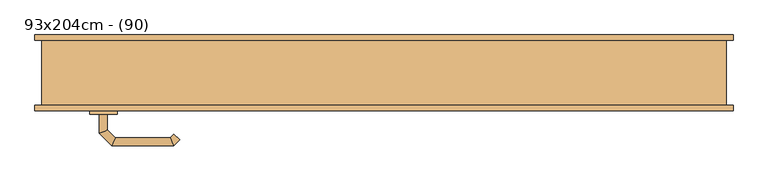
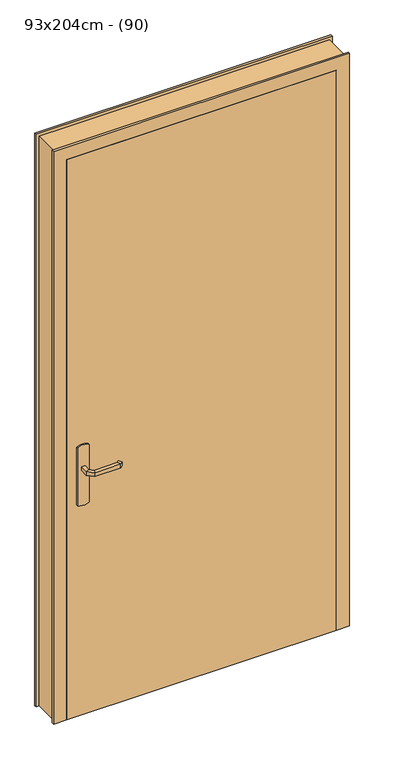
"""IFC4 building model written with IfcOpenShell, lengths in millimetres: door geometry, C&L Int. Simple vantail (dormant variable) : 93x204cm - (90)."""

from ifc_helpers import new_model, si_unit, point, frame, frame_2d, origin, origin_with_axes, place, context, project, spatial, polyline, circle_curve, ellipse_curve, trimmed, segment, composite_curve, outline, extrude, faceted_brep, source, transform, mapped, element, save
from ifc_brep_helpers import plane_surface, cylinder_surface, advanced_brep


def door_93x204cm_90_e0afc46d(model_context):
    return source(origin(), model_context, "Body", "SolidModel", [
        extrude(outline(composite_curve([segment(trimmed(circle_curve(frame_2d((804.6410162, -410.0)), 40.0), [point((770.0, -430.0))], [point((770.0, -390.0))], False, "CARTESIAN"), True, "CONTINUOUS"), segment(polyline([(770.0, -390.0), (980.0, -390.0)]), True, "CONTINUOUS"), segment(trimmed(circle_curve(frame_2d((945.3589838, -410.0)), 40.0), [point((980.0, -390.0))], [point((980.0, -430.0))], False, "CARTESIAN"), True, "CONTINUOUS"), segment(polyline([(980.0, -430.0), (770.0, -430.0)]), True, "CONTINUOUS")], self_intersect=False)), frame((0.0, -60.5, 0.0), z_axis=(0.0, 1.0, 0.0), x_axis=(0.0, 0.0, 1.0)), (0.0, 0.0, 1.0), 5.0),
        extrude(outline(composite_curve([segment(trimmed(circle_curve(frame_2d((945.3589838, -410.0)), 40.0), [point((980.0, -390.0))], [point((980.0, -430.0))], False, "CARTESIAN"), True, "CONTINUOUS"), segment(polyline([(980.0, -430.0), (770.0, -430.0)]), True, "CONTINUOUS"), segment(trimmed(circle_curve(frame_2d((804.6410162, -410.0)), 40.0), [point((770.0, -430.0))], [point((770.0, -390.0))], False, "CARTESIAN"), True, "CONTINUOUS"), segment(polyline([(770.0, -390.0), (980.0, -390.0)]), True, "CONTINUOUS")], self_intersect=False)), frame((0.0, -15.5, 0.0), z_axis=(0.0, 1.0, 0.0), x_axis=(0.0, 0.0, 1.0)), (0.0, 0.0, 1.0), 5.0),
        advanced_brep(
        [(-416.0, -60.5, 907.0), (-404.0, -60.5, 907.0), (-404.0, -60.5, 893.0), (-416.0, -60.5, 893.0), (-416.0, -88.1509507, 907.0), (-404.0, -83.180388, 907.0), (-404.0, -83.180388, 893.0), (-416.0, -88.1509507, 893.0), (-397.62279, -106.5281607, 907.0), (-392.6522273, -94.5281607, 907.0), (-392.6522273, -94.5281607, 893.0), (-397.62279, -106.5281607, 893.0), (-307.496078, -106.5281607, 907.0), (-312.4666408, -94.5281607, 907.0), (-312.4666408, -94.5281607, 893.0), (-307.496078, -106.5281607, 893.0), (-298.6676509, -97.6997336, 907.0), (-298.6676509, -97.6997336, 893.0), (-307.1529323, -89.2144522, 893.0), (-307.1529323, -89.2144522, 907.0)],
        [
            (0, 1, circle_curve(frame((-410.0, -60.5, 886.9542278), z_axis=(0.0, 1.0, 0.0), x_axis=(1.0, 0.0, 0.0)), 20.9244589)),
            (1, 2),
            (2, 3, circle_curve(frame((-410.0, -60.5, 913.0457722), z_axis=(0.0, 1.0, 0.0), x_axis=(1.0, 0.0, 0.0)), 20.9244589)),
            (3, 0),
            (0, 4),
            (4, 5, ellipse_curve(frame((-410.0, -85.6656693, 886.9542278), z_axis=(-0.3826834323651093, 0.9238795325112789, 0.0), x_axis=(0.9238795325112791, 0.38268343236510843, 0.0)), 22.6484711, 20.9244589)),
            (5, 1),
            (5, 6),
            (6, 2),
            (6, 7, ellipse_curve(frame((-410.0, -85.6656693, 913.0457722), z_axis=(-0.3826834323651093, 0.9238795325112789, 0.0), x_axis=(0.9238795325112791, 0.38268343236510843, 0.0)), 22.6484711, 20.9244589)),
            (7, 3),
            (7, 4),
            (4, 8),
            (8, 9, ellipse_curve(frame((-395.1375086, -100.5281607, 886.9542278), z_axis=(-0.9238795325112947, 0.38268343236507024, 0.0), x_axis=(0.3826834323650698, 0.9238795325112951, 0.0)), 22.6484711, 20.9244589)),
            (9, 5),
            (9, 10),
            (10, 6),
            (10, 11, ellipse_curve(frame((-395.1375086, -100.5281607, 913.0457722), z_axis=(-0.9238795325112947, 0.38268343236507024, 0.0), x_axis=(0.3826834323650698, 0.9238795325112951, 0.0)), 22.6484711, 20.9244589)),
            (11, 7),
            (11, 8),
            (8, 12),
            (12, 13, ellipse_curve(frame((-309.9813594, -100.5281607, 886.9542278), z_axis=(-0.9238795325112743, -0.3826834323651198, 0.0), x_axis=(-0.38268343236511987, 0.9238795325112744, 0.0)), 22.6484711, 20.9244589)),
            (13, 9),
            (13, 14),
            (14, 10),
            (14, 15, ellipse_curve(frame((-309.9813594, -100.5281607, 913.0457722), z_axis=(-0.9238795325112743, -0.3826834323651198, 0.0), x_axis=(-0.38268343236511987, 0.9238795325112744, 0.0)), 22.6484711, 20.9244589)),
            (15, 11),
            (15, 12),
            (16, 17),
            (17, 18, circle_curve(frame((-302.9102916, -93.4570929, 913.0457722), z_axis=(0.7071067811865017, 0.7071067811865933, 0.0), x_axis=(-0.7071067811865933, 0.7071067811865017, 0.0)), 20.9244589)),
            (18, 19),
            (19, 16, circle_curve(frame((-302.9102916, -93.4570929, 886.9542278), z_axis=(0.7071067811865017, 0.7071067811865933, 0.0), x_axis=(-0.7071067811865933, 0.7071067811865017, 0.0)), 20.9244589)),
            (12, 16),
            (19, 13),
            (18, 14),
            (17, 15),
        ],
        [
            plane_surface(frame((-419.2195445, -60.5, 900.0), z_axis=(0.0, 1.0, 0.0), x_axis=(0.0, 0.0, -1.0))),
            cylinder_surface(frame((-410.0, -60.5, 886.9542278), z_axis=(0.0, 1.0, 0.0), x_axis=(1.0, 0.0, 0.0)), 20.9244589),
            plane_surface(frame((-404.0, -60.5, 907.0), z_axis=(1.0, 0.0, 0.0), x_axis=(0.0, -1.0, 0.0))),
            cylinder_surface(frame((-410.0, -60.5, 913.0457722), z_axis=(0.0, 1.0, 0.0), x_axis=(1.0, 0.0, 0.0)), 20.9244589),
            plane_surface(frame((-416.0, -60.5, 893.0), z_axis=(-1.0, 0.0, 0.0), x_axis=(0.0, -1.0, 0.0))),
            cylinder_surface(frame((-410.0, -85.6656693, 886.9542278), z_axis=(-0.7071067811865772, 0.7071067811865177, 0.0), x_axis=(0.7071067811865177, 0.7071067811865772, 0.0)), 20.9244589),
            plane_surface(frame((-404.0, -83.180388, 907.0), z_axis=(0.7071067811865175, 0.7071067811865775, 0.0), x_axis=(0.7071067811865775, -0.7071067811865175, 0.0))),
            cylinder_surface(frame((-410.0, -85.6656693, 913.0457722), z_axis=(-0.7071067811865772, 0.7071067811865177, 0.0), x_axis=(0.7071067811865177, 0.7071067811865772, 0.0)), 20.9244589),
            plane_surface(frame((-416.0, -88.1509507, 893.0), z_axis=(-0.7071067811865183, -0.7071067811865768, 0.0), x_axis=(0.7071067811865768, -0.7071067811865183, 0.0))),
            cylinder_surface(frame((-395.1375086, -100.5281607, 886.9542278), z_axis=(-1.0, 0.0, 0.0), x_axis=(0.0, 1.0, 0.0)), 20.9244589),
            plane_surface(frame((-392.6522273, -94.5281607, 907.0), z_axis=(0.0, 1.0, 0.0), x_axis=(1.0, 0.0, 0.0))),
            cylinder_surface(frame((-395.1375086, -100.5281607, 913.0457722), z_axis=(-1.0, 0.0, 0.0), x_axis=(0.0, 1.0, 0.0)), 20.9244589),
            plane_surface(frame((-397.62279, -106.5281607, 893.0), z_axis=(0.0, -1.0, 0.0), x_axis=(1.0, 0.0, 0.0))),
            plane_surface(frame((-302.9102916, -93.4570929, 909.2195445), z_axis=(0.7071067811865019, 0.7071067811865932, 0.0), x_axis=(0.7071067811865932, -0.7071067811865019, 0.0))),
            cylinder_surface(frame((-309.9813594, -100.5281607, 886.9542278), z_axis=(-0.7071067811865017, -0.7071067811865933, 0.0), x_axis=(-0.7071067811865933, 0.7071067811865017, 0.0)), 20.9244589),
            plane_surface(frame((-312.4666408, -94.5281607, 907.0), z_axis=(-0.7071067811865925, 0.7071067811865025, 0.0), x_axis=(0.7071067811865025, 0.7071067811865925, 0.0))),
            cylinder_surface(frame((-309.9813594, -100.5281607, 913.0457722), z_axis=(-0.7071067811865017, -0.7071067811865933, 0.0), x_axis=(-0.7071067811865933, 0.7071067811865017, 0.0)), 20.9244589),
            plane_surface(frame((-307.496078, -106.5281607, 893.0), z_axis=(0.707106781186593, -0.7071067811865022, 0.0), x_axis=(0.7071067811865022, 0.707106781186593, 0.0))),
        ],
        [
            (0, [[1, 2, 3, 4]]),
            (1, [[-1, 5, 6, 7]]),
            (2, [[-2, -7, 8, 9]]),
            (3, [[-3, -9, 10, 11]]),
            (4, [[-4, -11, 12, -5]]),
            (5, [[-6, 13, 14, 15]]),
            (6, [[-8, -15, 16, 17]]),
            (7, [[-10, -17, 18, 19]]),
            (8, [[-12, -19, 20, -13]]),
            (9, [[-14, 21, 22, 23]]),
            (10, [[-16, -23, 24, 25]]),
            (11, [[-18, -25, 26, 27]]),
            (12, [[-20, -27, 28, -21]]),
            (13, [[29, 30, 31, 32]]),
            (14, [[-22, 33, -32, 34]]),
            (15, [[-24, -34, -31, 35]]),
            (16, [[-26, -35, -30, 36]]),
            (17, [[-28, -36, -29, -33]]),
        ],
    ),
        advanced_brep(
        [(-404.0, -10.5, 893.0), (-404.0, -10.5, 907.0), (-416.0, -10.5, 907.0), (-416.0, -10.5, 893.0), (-404.0, 11.9852045, 893.0), (-404.0, 11.9852045, 907.0), (-416.0, 16.9557673, 907.0), (-416.0, 16.9557673, 893.0), (-392.5147186, 23.4704859, 893.0), (-392.5147186, 23.4704859, 907.0), (-397.4852814, 35.4704859, 907.0), (-397.4852814, 35.4704859, 893.0), (-312.4394977, 23.4704859, 893.0), (-312.4394977, 23.4704859, 907.0), (-307.468935, 35.4704859, 907.0), (-307.468935, 35.4704859, 893.0), (-307.1257892, 18.1567774, 893.0), (-298.6405078, 26.6420588, 893.0), (-298.6405078, 26.6420588, 907.0), (-307.1257892, 18.1567774, 907.0)],
        [
            (0, 1),
            (1, 2, circle_curve(frame((-410.0, -10.5, 886.9542278), z_axis=(0.0, -1.0, 0.0), x_axis=(-1.0, 0.0, 0.0)), 20.9244589)),
            (2, 3),
            (3, 0, circle_curve(frame((-410.0, -10.5, 913.0457722), z_axis=(0.0, -1.0, 0.0), x_axis=(-1.0, 0.0, 0.0)), 20.9244589)),
            (0, 4),
            (4, 5),
            (5, 1),
            (5, 6, ellipse_curve(frame((-410.0, 14.4704859, 886.9542278), z_axis=(-0.3826834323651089, -0.9238795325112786, 0.0), x_axis=(0.9238795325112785, -0.3826834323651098, 0.0)), 22.6484711, 20.9244589)),
            (6, 2),
            (6, 7),
            (7, 3),
            (7, 4, ellipse_curve(frame((-410.0, 14.4704859, 913.0457722), z_axis=(-0.3826834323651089, -0.9238795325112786, 0.0), x_axis=(0.9238795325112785, -0.3826834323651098, 0.0)), 22.6484711, 20.9244589)),
            (4, 8),
            (8, 9),
            (9, 5),
            (9, 10, ellipse_curve(frame((-395.0, 29.4704859, 886.9542278), z_axis=(-0.9238795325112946, -0.38268343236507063, 0.0), x_axis=(0.3826834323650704, -0.9238795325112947, 0.0)), 22.6484711, 20.9244589)),
            (10, 6),
            (10, 11),
            (11, 7),
            (11, 8, ellipse_curve(frame((-395.0, 29.4704859, 913.0457722), z_axis=(-0.9238795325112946, -0.38268343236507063, 0.0), x_axis=(0.3826834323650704, -0.9238795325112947, 0.0)), 22.6484711, 20.9244589)),
            (8, 12),
            (12, 13),
            (13, 9),
            (13, 14, ellipse_curve(frame((-309.9542163, 29.4704859, 886.9542278), z_axis=(-0.9238795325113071, 0.38268343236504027, 0.0), x_axis=(-0.38268343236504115, -0.9238795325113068, 0.0)), 22.6484711, 20.9244589)),
            (14, 10),
            (14, 15),
            (15, 11),
            (15, 12, ellipse_curve(frame((-309.9542163, 29.4704859, 913.0457722), z_axis=(-0.9238795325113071, 0.38268343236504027, 0.0), x_axis=(-0.38268343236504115, -0.9238795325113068, 0.0)), 22.6484711, 20.9244589)),
            (16, 17, circle_curve(frame((-302.8831485, 22.3994181, 913.0457722), z_axis=(0.7071067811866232, -0.7071067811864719, 0.0), x_axis=(0.7071067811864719, 0.7071067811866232, 0.0)), 20.9244589)),
            (17, 18),
            (18, 19, circle_curve(frame((-302.8831485, 22.3994181, 886.9542278), z_axis=(0.7071067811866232, -0.7071067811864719, 0.0), x_axis=(0.7071067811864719, 0.7071067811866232, 0.0)), 20.9244589)),
            (19, 16),
            (12, 16),
            (19, 13),
            (18, 14),
            (17, 15),
        ],
        [
            plane_surface(frame((-419.2195445, -10.5, 900.0), z_axis=(0.0, -1.0, 0.0), x_axis=(0.0, 0.0, 1.0))),
            plane_surface(frame((-404.0, -10.5, 893.0), z_axis=(1.0, 0.0, 0.0), x_axis=(0.0, 1.0, 0.0))),
            cylinder_surface(frame((-410.0, -10.5, 886.9542278), z_axis=(0.0, -1.0, 0.0), x_axis=(-1.0, 0.0, 0.0)), 20.9244589),
            plane_surface(frame((-416.0, -10.5, 907.0), z_axis=(-1.0, 0.0, 0.0), x_axis=(0.0, 1.0, 0.0))),
            cylinder_surface(frame((-410.0, -10.5, 913.0457722), z_axis=(0.0, -1.0, 0.0), x_axis=(-1.0, 0.0, 0.0)), 20.9244589),
            plane_surface(frame((-404.0, 11.9852045, 893.0), z_axis=(0.707106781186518, -0.707106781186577, 0.0), x_axis=(0.707106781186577, 0.707106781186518, 0.0))),
            cylinder_surface(frame((-410.0, 14.4704859, 886.9542278), z_axis=(-0.7071067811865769, -0.7071067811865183, 0.0), x_axis=(-0.7071067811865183, 0.7071067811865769, 0.0)), 20.9244589),
            plane_surface(frame((-416.0, 16.9557673, 907.0), z_axis=(-0.7071067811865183, 0.7071067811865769, 0.0), x_axis=(0.7071067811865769, 0.7071067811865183, 0.0))),
            cylinder_surface(frame((-410.0, 14.4704859, 913.0457722), z_axis=(-0.7071067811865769, -0.7071067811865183, 0.0), x_axis=(-0.7071067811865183, 0.7071067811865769, 0.0)), 20.9244589),
            plane_surface(frame((-392.5147186, 23.4704859, 893.0), z_axis=(0.0, -1.0, 0.0), x_axis=(1.0, 0.0, 0.0))),
            cylinder_surface(frame((-395.0, 29.4704859, 886.9542278), z_axis=(-1.0, 0.0, 0.0), x_axis=(0.0, 1.0, 0.0)), 20.9244589),
            plane_surface(frame((-397.4852814, 35.4704859, 907.0), z_axis=(0.0, 1.0, 0.0), x_axis=(1.0, 0.0, 0.0))),
            cylinder_surface(frame((-395.0, 29.4704859, 913.0457722), z_axis=(-1.0, 0.0, 0.0), x_axis=(0.0, 1.0, 0.0)), 20.9244589),
            plane_surface(frame((-302.8831485, 22.3994181, 890.7804555), z_axis=(0.7071067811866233, -0.7071067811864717, 0.0), x_axis=(0.7071067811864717, 0.7071067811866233, 0.0))),
            plane_surface(frame((-312.4394977, 23.4704859, 893.0), z_axis=(-0.7071067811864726, -0.7071067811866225, 0.0), x_axis=(0.7071067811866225, -0.7071067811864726, 0.0))),
            cylinder_surface(frame((-309.9542163, 29.4704859, 886.9542278), z_axis=(-0.7071067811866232, 0.7071067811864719, 0.0), x_axis=(0.7071067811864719, 0.7071067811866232, 0.0)), 20.9244589),
            plane_surface(frame((-307.468935, 35.4704859, 907.0), z_axis=(0.7071067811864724, 0.7071067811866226, 0.0), x_axis=(0.7071067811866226, -0.7071067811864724, 0.0))),
            cylinder_surface(frame((-309.9542163, 29.4704859, 913.0457722), z_axis=(-0.7071067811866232, 0.7071067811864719, 0.0), x_axis=(0.7071067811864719, 0.7071067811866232, 0.0)), 20.9244589),
        ],
        [
            (0, [[1, 2, 3, 4]]),
            (1, [[-1, 5, 6, 7]]),
            (2, [[-2, -7, 8, 9]]),
            (3, [[-3, -9, 10, 11]]),
            (4, [[-4, -11, 12, -5]]),
            (5, [[-6, 13, 14, 15]]),
            (6, [[-8, -15, 16, 17]]),
            (7, [[-10, -17, 18, 19]]),
            (8, [[-12, -19, 20, -13]]),
            (9, [[-14, 21, 22, 23]]),
            (10, [[-16, -23, 24, 25]]),
            (11, [[-18, -25, 26, 27]]),
            (12, [[-20, -27, 28, -21]]),
            (13, [[29, 30, 31, 32]]),
            (14, [[-22, 33, -32, 34]]),
            (15, [[-24, -34, -31, 35]]),
            (16, [[-26, -35, -30, 36]]),
            (17, [[-28, -36, -29, -33]]),
        ],
    ),
        faceted_brep([(-500.0, -47.5, 0.0), (-500.0, 47.5, 0.0), (-510.0, 47.5, 0.0), (-510.0, 55.5, 0.0), (-450.0, 55.5, 0.0), (-450.0, -15.5, 0.0), (-465.0, -15.5, 0.0), (-465.0, -55.5, 0.0), (-510.0, -55.5, 0.0), (-510.0, -47.5, 0.0), (-500.0, -47.5, 2075.0), (-500.0, 47.5, 2075.0), (500.0, 47.5, 2075.0), (500.0, 47.5, 0.0), (510.0, 47.5, 0.0), (510.0, 47.5, 2085.0), (-510.0, 47.5, 2085.0), (-510.0, 55.5, 2085.0), (510.0, 55.5, 2085.0), (510.0, 55.5, 0.0), (450.0, 55.5, 0.0), (450.0, 55.5, 2025.0), (-450.0, 55.5, 2025.0), (-450.0, -15.5, 2025.0), (450.0, -15.5, 2025.0), (450.0, -15.5, 0.0), (465.0, -15.5, 0.0), (465.0, -15.5, 2040.0), (-465.0, -15.5, 2040.0), (-465.0, -55.5, 2040.0), (465.0, -55.5, 2040.0), (465.0, -55.5, 0.0), (510.0, -55.5, 0.0), (510.0, -55.5, 2085.0), (-510.0, -55.5, 2085.0), (-510.0, -47.5, 2085.0), (510.0, -47.5, 2085.0), (510.0, -47.5, 0.0), (500.0, -47.5, 0.0), (500.0, -47.5, 2075.0)], [[[0, 1, 2, 3, 4, 5, 6, 7, 8, 9]], [[1, 0, 10, 11]], [[2, 1, 11, 12, 13, 14, 15, 16]], [[3, 2, 16, 17]], [[4, 3, 17, 18, 19, 20, 21, 22]], [[5, 4, 22, 23]], [[6, 5, 23, 24, 25, 26, 27, 28]], [[7, 6, 28, 29]], [[8, 7, 29, 30, 31, 32, 33, 34]], [[9, 8, 34, 35]], [[0, 9, 35, 36, 37, 38, 39, 10]], [[11, 10, 39, 12]], [[17, 16, 15, 18]], [[23, 22, 21, 24]], [[29, 28, 27, 30]], [[35, 34, 33, 36]], [[38, 37, 32, 31, 26, 25, 20, 19, 14, 13]], [[12, 39, 38, 13]], [[18, 15, 14, 19]], [[24, 21, 20, 25]], [[30, 27, 26, 31]], [[36, 33, 32, 37]]]),
        extrude(outline(polyline([(465.0, -55.5), (-465.0, -55.5), (-465.0, -15.5), (465.0, -15.5), (465.0, -55.5)])), origin_with_axes(), (0.0, 0.0, 1.0), 2040.0),
    ])


if __name__ == "__main__":
    model = new_model("IFC4")
    model_context = context("Model", 3, world=origin())
    ifc_project = project(units=[si_unit("LENGTHUNIT", "METRE", prefix="MILLI")], contexts=[model_context])
    site = spatial("IfcSite", under=ifc_project)
    building = spatial("IfcBuilding", under=site)
    placement = place(None, origin())
    door_93x204cm_90_shape = door_93x204cm_90_e0afc46d(model_context)
    element("IfcDoor", 1, ObjectType="C&L Int. Simple vantail (dormant variable) : 93x204cm - (90)", at=placement, inside=building, context=model_context, shape_type="MappedRepresentation", body=[
        mapped(door_93x204cm_90_shape, transform((0.0, 0.0, 0.0), x_axis=(1.0, 0.0, 0.0), y_axis=(0.0, 1.0, 0.0), z_axis=(0.0, 0.0, 1.0))),
    ])
    save(model, "model.ifc")
